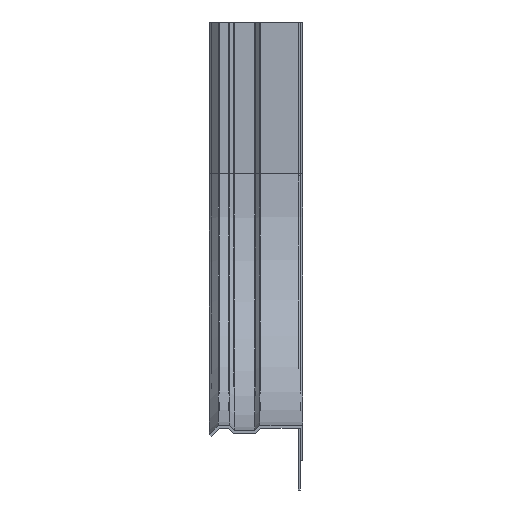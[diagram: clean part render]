
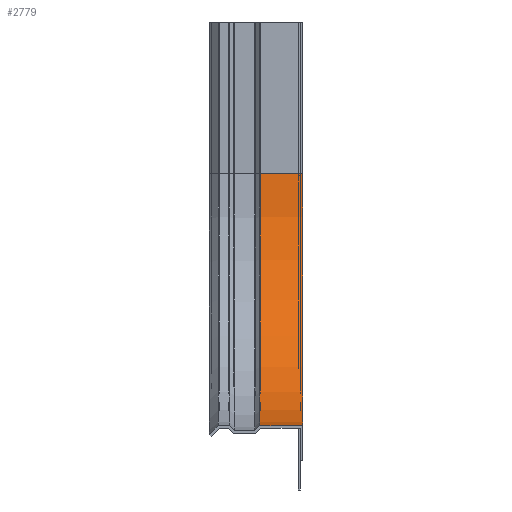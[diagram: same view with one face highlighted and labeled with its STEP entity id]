
A CAD part, left-side view. The second image highlights one B-rep face of the part: STEP entity #2779.
In plain terms, the highlighted cylindrical face has radius 100 mm (diameter 200 mm), a partial arc.
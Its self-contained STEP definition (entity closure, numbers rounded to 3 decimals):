
#15 = CARTESIAN_POINT ( 'NONE',  ( -60., 0., 160. ) ) ;
#21 = DIRECTION ( 'NONE',  ( 0., -1., 0. ) ) ;
#68 = DIRECTION ( 'NONE',  ( 0., 1., 0. ) ) ;
#96 = DIRECTION ( 'NONE',  ( 0., 0., -1. ) ) ;
#134 = EDGE_CURVE ( 'NONE', #2006, #308, #1558, .T. ) ;
#259 = CARTESIAN_POINT ( 'NONE',  ( -60., 0., 60. ) ) ;
#308 = VERTEX_POINT ( 'NONE', #3186 ) ;
#479 = VECTOR ( 'NONE', #640, 1000. ) ;
#530 = CARTESIAN_POINT ( 'NONE',  ( -60., 17., 160. ) ) ;
#640 = DIRECTION ( 'NONE',  ( 0., 1., 0. ) ) ;
#646 = CARTESIAN_POINT ( 'NONE',  ( -60., 17., 60. ) ) ;
#739 = ORIENTED_EDGE ( 'NONE', *, *, #3446, .F. ) ;
#875 = VERTEX_POINT ( 'NONE', #530 ) ;
#994 = DIRECTION ( 'NONE',  ( 0., -1., 0. ) ) ;
#1051 = CARTESIAN_POINT ( 'NONE',  ( -60., 0., 160. ) ) ;
#1083 = CYLINDRICAL_SURFACE ( 'NONE', #2048, 100. ) ;
#1129 = ORIENTED_EDGE ( 'NONE', *, *, #134, .T. ) ;
#1460 = DIRECTION ( 'NONE',  ( 0., -1., 0. ) ) ;
#1547 = CARTESIAN_POINT ( 'NONE',  ( -60., 0., 60. ) ) ;
#1558 = LINE ( 'NONE', #1856, #3206 ) ;
#1580 = LINE ( 'NONE', #15, #479 ) ;
#1796 = CIRCLE ( 'NONE', #3301, 100. ) ;
#1856 = CARTESIAN_POINT ( 'NONE',  ( -160., 0., 60. ) ) ;
#1998 = EDGE_CURVE ( 'NONE', #3587, #875, #1580, .T. ) ;
#2006 = VERTEX_POINT ( 'NONE', #2955 ) ;
#2048 = AXIS2_PLACEMENT_3D ( 'NONE', #259, #1460, #2074 ) ;
#2074 = DIRECTION ( 'NONE',  ( 0., 0., -1. ) ) ;
#2231 = CIRCLE ( 'NONE', #2731, 100. ) ;
#2271 = EDGE_LOOP ( 'NONE', ( #2562, #2882, #1129, #739 ) ) ;
#2311 = FACE_OUTER_BOUND ( 'NONE', #2271, .T. ) ;
#2562 = ORIENTED_EDGE ( 'NONE', *, *, #1998, .F. ) ;
#2731 = AXIS2_PLACEMENT_3D ( 'NONE', #1547, #994, #2759 ) ;
#2759 = DIRECTION ( 'NONE',  ( 0., 0., -1. ) ) ;
#2779 = ADVANCED_FACE ( 'NONE', ( #2311 ), #1083, .F. ) ;
#2882 = ORIENTED_EDGE ( 'NONE', *, *, #3402, .T. ) ;
#2955 = CARTESIAN_POINT ( 'NONE',  ( -160., 0., 60. ) ) ;
#3186 = CARTESIAN_POINT ( 'NONE',  ( -160., 17., 60. ) ) ;
#3206 = VECTOR ( 'NONE', #68, 1000. ) ;
#3301 = AXIS2_PLACEMENT_3D ( 'NONE', #646, #21, #96 ) ;
#3402 = EDGE_CURVE ( 'NONE', #3587, #2006, #2231, .T. ) ;
#3446 = EDGE_CURVE ( 'NONE', #875, #308, #1796, .T. ) ;
#3587 = VERTEX_POINT ( 'NONE', #1051 ) ;
